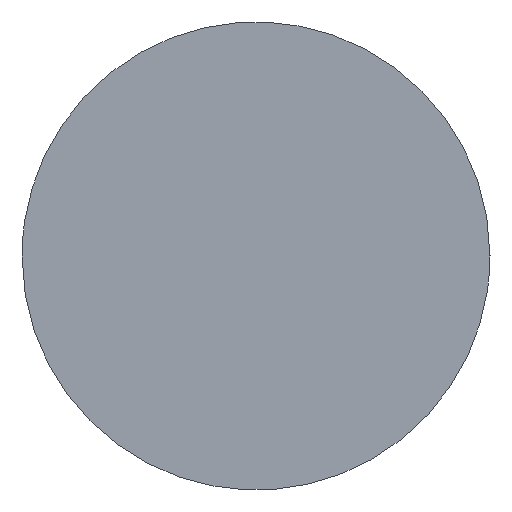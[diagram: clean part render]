
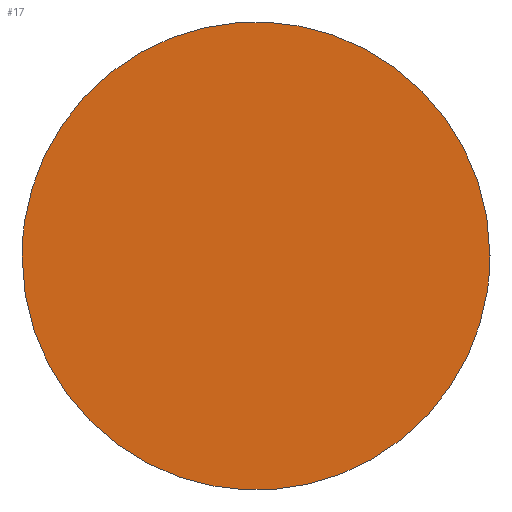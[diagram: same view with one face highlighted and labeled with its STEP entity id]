
A CAD part, left-side view. The second image highlights one B-rep face of the part: STEP entity #17.
In plain terms, the highlighted planar face has unit normal (-1, 0, 0).
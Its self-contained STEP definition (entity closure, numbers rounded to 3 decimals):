
#17=ADVANCED_FACE('',(#21),#56,.T.);
#21=FACE_OUTER_BOUND('',#25,.T.);
#25=EDGE_LOOP('',(#33,#34));
#33=ORIENTED_EDGE('',*,*,#41,.T.);
#34=ORIENTED_EDGE('',*,*,#44,.T.);
#41=EDGE_CURVE('',#52,#54,#47,.T.);
#44=EDGE_CURVE('',#54,#52,#50,.T.);
#47=(
BOUNDED_CURVE()
B_SPLINE_CURVE(2,(#122,#123,#124,#125,#126),.UNSPECIFIED.,.F.,.F.)
B_SPLINE_CURVE_WITH_KNOTS((3,2,3),(-15.708,-11.781,-7.854),
 .UNSPECIFIED.)
CURVE()
GEOMETRIC_REPRESENTATION_ITEM()
RATIONAL_B_SPLINE_CURVE((1.,0.707,1.,0.707,1.))
REPRESENTATION_ITEM('')
);
#50=(
BOUNDED_CURVE()
B_SPLINE_CURVE(2,(#134,#135,#136,#137,#138),.UNSPECIFIED.,.F.,.F.)
B_SPLINE_CURVE_WITH_KNOTS((3,2,3),(-7.854,-3.927,
0.),.UNSPECIFIED.)
CURVE()
GEOMETRIC_REPRESENTATION_ITEM()
RATIONAL_B_SPLINE_CURVE((1.,0.707,1.,0.707,1.))
REPRESENTATION_ITEM('')
);
#52=VERTEX_POINT('',#112);
#54=VERTEX_POINT('',#114);
#56=PLANE('',#80);
#80=AXIS2_PLACEMENT_3D('',#100,#85,$);
#85=DIRECTION('',(-1.,0.,0.));
#100=CARTESIAN_POINT('',(-165.305,-122.322,380.951));
#112=CARTESIAN_POINT('',(-165.305,-122.947,384.076));
#114=CARTESIAN_POINT('',(-165.305,-127.947,384.076));
#122=CARTESIAN_POINT('',(-165.305,-122.947,384.076));
#123=CARTESIAN_POINT('',(-165.305,-122.947,381.576));
#124=CARTESIAN_POINT('',(-165.305,-125.447,381.576));
#125=CARTESIAN_POINT('',(-165.305,-127.947,381.576));
#126=CARTESIAN_POINT('',(-165.305,-127.947,384.076));
#134=CARTESIAN_POINT('',(-165.305,-127.947,384.076));
#135=CARTESIAN_POINT('',(-165.305,-127.947,386.576));
#136=CARTESIAN_POINT('',(-165.305,-125.447,386.576));
#137=CARTESIAN_POINT('',(-165.305,-122.947,386.576));
#138=CARTESIAN_POINT('',(-165.305,-122.947,384.076));
